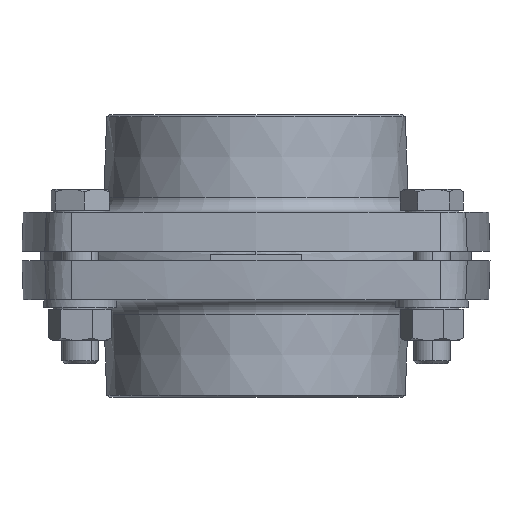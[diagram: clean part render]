
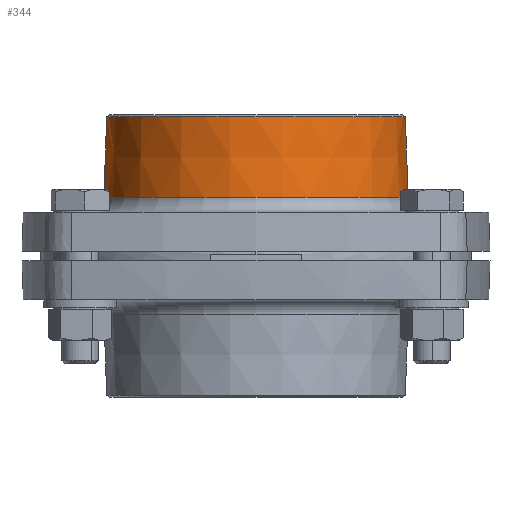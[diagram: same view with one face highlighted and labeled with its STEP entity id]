
A CAD part, front view. The second image highlights one B-rep face of the part: STEP entity #344.
In plain terms, the highlighted conical face has half-angle 2 degrees and reference radius 50.325 mm.
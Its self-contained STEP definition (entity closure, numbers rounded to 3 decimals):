
#344 = ADVANCED_FACE ( 'NONE', ( #6332 ), #9791, .T. ) ;
#1098 = ORIENTED_EDGE ( 'NONE', *, *, #2715, .T. ) ;
#1164 = AXIS2_PLACEMENT_3D ( 'NONE', #3930, #9949, #7144 ) ;
#1779 = VERTEX_POINT ( 'NONE', #3489 ) ;
#2006 = EDGE_LOOP ( 'NONE', ( #10330, #7241, #1098, #3228 ) ) ;
#2096 = LINE ( 'NONE', #4078, #6827 ) ;
#2105 = CARTESIAN_POINT ( 'NONE',  ( -89.585, -1.472, 39.709 ) ) ;
#2650 = EDGE_CURVE ( 'NONE', #3033, #9053, #8241, .T. ) ;
#2715 = EDGE_CURVE ( 'NONE', #9053, #3391, #2906, .T. ) ;
#2906 = CIRCLE ( 'NONE', #11028, 50.156 ) ;
#2924 = DIRECTION ( 'NONE',  ( 0., 0., -1. ) ) ;
#2996 = CARTESIAN_POINT ( 'NONE',  ( -40.357, -1.472, 13.119 ) ) ;
#3033 = VERTEX_POINT ( 'NONE', #2105 ) ;
#3228 = ORIENTED_EDGE ( 'NONE', *, *, #5606, .F. ) ;
#3391 = VERTEX_POINT ( 'NONE', #5172 ) ;
#3489 = CARTESIAN_POINT ( 'NONE',  ( 8.871, -1.472, 39.709 ) ) ;
#3930 = CARTESIAN_POINT ( 'NONE',  ( -40.357, -1.472, 8.293 ) ) ;
#4010 = DIRECTION ( 'NONE',  ( 0., 0., 1. ) ) ;
#4078 = CARTESIAN_POINT ( 'NONE',  ( 9.968, -1.472, 8.293 ) ) ;
#4752 = DIRECTION ( 'NONE',  ( 1., 0., 0. ) ) ;
#5172 = CARTESIAN_POINT ( 'NONE',  ( 9.8, -1.472, 13.119 ) ) ;
#5542 = DIRECTION ( 'NONE',  ( -0.035, 0., -0.999 ) ) ;
#5606 = EDGE_CURVE ( 'NONE', #1779, #3391, #2096, .T. ) ;
#5838 = VECTOR ( 'NONE', #5542, 1000. ) ;
#6332 = FACE_OUTER_BOUND ( 'NONE', #2006, .T. ) ;
#6827 = VECTOR ( 'NONE', #7700, 1000. ) ;
#7144 = DIRECTION ( 'NONE',  ( 1., 0., 0. ) ) ;
#7241 = ORIENTED_EDGE ( 'NONE', *, *, #2650, .T. ) ;
#7330 = CARTESIAN_POINT ( 'NONE',  ( -90.682, -1.472, 8.293 ) ) ;
#7579 = CIRCLE ( 'NONE', #11585, 49.228 ) ;
#7700 = DIRECTION ( 'NONE',  ( 0.035, 0., -0.999 ) ) ;
#8241 = LINE ( 'NONE', #7330, #5838 ) ;
#8301 = CARTESIAN_POINT ( 'NONE',  ( -40.357, -1.472, 39.709 ) ) ;
#8882 = EDGE_CURVE ( 'NONE', #1779, #3033, #7579, .T. ) ;
#9053 = VERTEX_POINT ( 'NONE', #9540 ) ;
#9251 = DIRECTION ( 'NONE',  ( -1., 0., 0. ) ) ;
#9540 = CARTESIAN_POINT ( 'NONE',  ( -90.513, -1.472, 13.119 ) ) ;
#9791 = CONICAL_SURFACE ( 'NONE', #1164, 50.325, 0.035 ) ;
#9949 = DIRECTION ( 'NONE',  ( 0., 0., -1. ) ) ;
#10330 = ORIENTED_EDGE ( 'NONE', *, *, #8882, .T. ) ;
#11028 = AXIS2_PLACEMENT_3D ( 'NONE', #2996, #4010, #4752 ) ;
#11585 = AXIS2_PLACEMENT_3D ( 'NONE', #8301, #2924, #9251 ) ;
